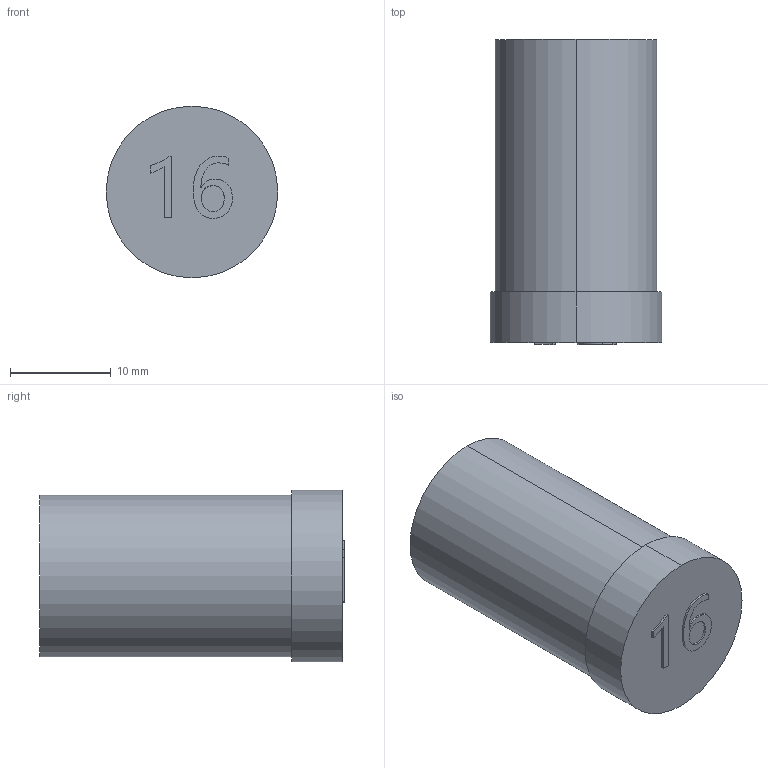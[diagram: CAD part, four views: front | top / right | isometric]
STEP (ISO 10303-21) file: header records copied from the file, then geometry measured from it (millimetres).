
FILE_DESCRIPTION (( 'STEP AP203' ), '1' );
FILE_NAME ('042883 ST16.STEP', '2023-11-23T00:59:36', ( '' ), ( '' ), 'SwSTEP 2.0', 'SolidWorks 2016', '' );
FILE_SCHEMA (( 'CONFIG_CONTROL_DESIGN' ));
Length unit declared in the file: millimetre
Products named in the file (1): 042883 ST16
Bounding box: 17 x 30.2 x 17 mm (x, y, z)
Volume: 6164.6 mm3; surface area: 1987 mm2
Topology: 1 solids, 1 shells, 31 faces, 75 edges, 50 vertices
Faces by surface type: bspline 14, plane 13, cylinder 4
Entity records: 1722 total; most frequent: CARTESIAN_POINT 1003, ORIENTED_EDGE 150, DIRECTION 91, EDGE_CURVE 75, VERTEX_POINT 50, VECTOR 39, LINE 39, EDGE_LOOP 35
